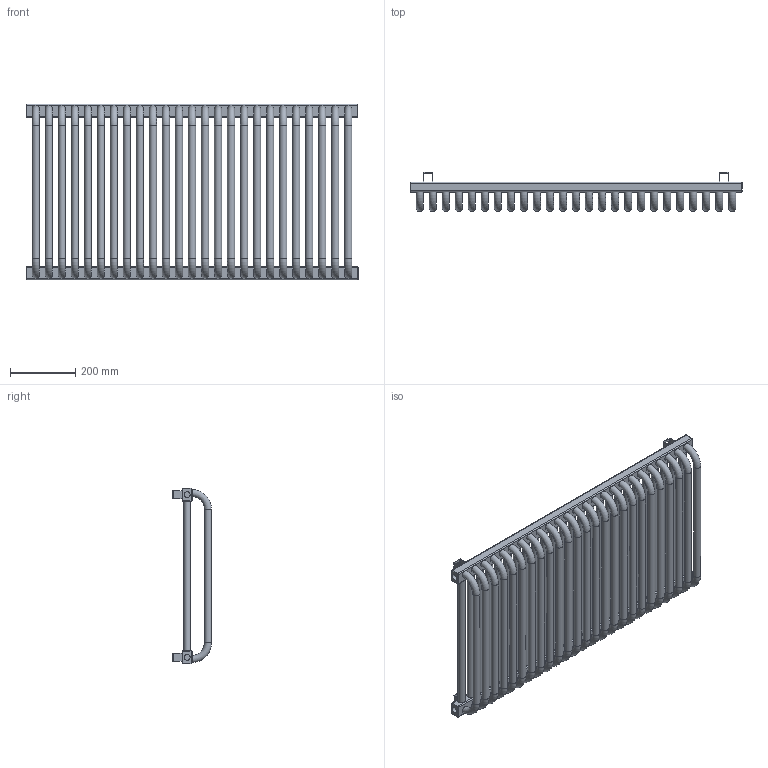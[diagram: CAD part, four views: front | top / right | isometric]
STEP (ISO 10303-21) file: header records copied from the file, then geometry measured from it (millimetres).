
FILE_DESCRIPTION((''),'2;1');
FILE_NAME('Z:\R\G\P\RGPH03 - Grzejnik Dobus\Work\Inventor\Marketing\STEP\DF-54-10-L6.stp','2012-07-25T11:32:26',('PioRo'),(''),'Autodesk Inventor 2012','Autodesk Inventor 2012','');
FILE_SCHEMA(('CONFIG_CONTROL_DESIGN'));
Length unit declared in the file: millimetre
Products named in the file (1): Część1
Bounding box: 1020 x 120 x 540 mm (x, y, z)
Volume: 12176427.5 mm3; surface area: 2031689.6 mm2
Topology: 5 solids, 5 shells, 250 faces, 623 edges, 388 vertices
Faces by surface type: cylinder 105, plane 79, torus 66
Full cylindrical faces by diameter (mm): 0.1 x4, 18.631 x3, 22 x50
Entity records: 10513 total; most frequent: CARTESIAN_POINT 4405, DIRECTION 1194, ORIENTED_EDGE 1032, EDGE_CURVE 516, AXIS2_PLACEMENT_3D 477, EDGE_LOOP 468, VERTEX_POINT 388, FACE_OUTER_BOUND 250
